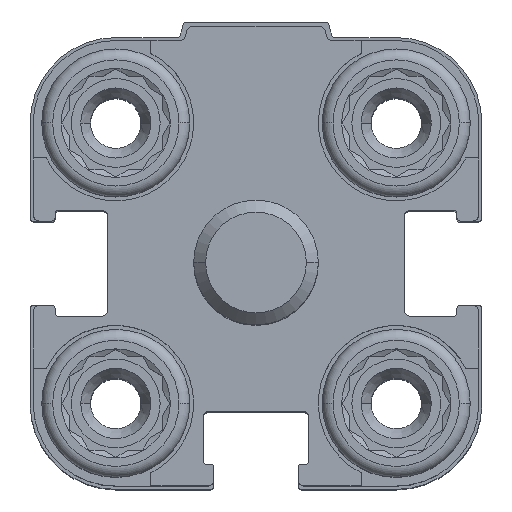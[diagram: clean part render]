
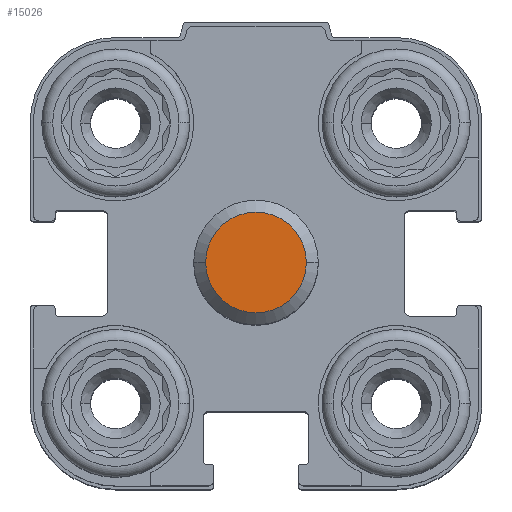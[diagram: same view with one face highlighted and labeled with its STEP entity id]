
A CAD part, top view. The second image highlights one B-rep face of the part: STEP entity #15026.
In plain terms, the highlighted planar face has unit normal (0, 0, 1).
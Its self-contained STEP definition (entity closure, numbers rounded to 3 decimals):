
#37 = AXIS2_PLACEMENT_3D ( 'NONE', #10712, #1025, #10891 ) ;
#325 = VERTEX_POINT ( 'NONE', #4646 ) ;
#1025 = DIRECTION ( 'NONE',  ( 0., 0., -1. ) ) ;
#2470 = ORIENTED_EDGE ( 'NONE', *, *, #7142, .F. ) ;
#3455 = CIRCLE ( 'NONE', #13479, 3.233 ) ;
#3671 = CARTESIAN_POINT ( 'NONE',  ( 0., 0., 24.5 ) ) ;
#4646 = CARTESIAN_POINT ( 'NONE',  ( -3.233, 0., 24.5 ) ) ;
#5130 = AXIS2_PLACEMENT_3D ( 'NONE', #5410, #7846, #10969 ) ;
#5410 = CARTESIAN_POINT ( 'NONE',  ( 0., 0., 24.5 ) ) ;
#6533 = EDGE_CURVE ( 'NONE', #325, #8972, #3455, .T. ) ;
#6995 = CARTESIAN_POINT ( 'NONE',  ( 3.233, 0., 24.5 ) ) ;
#7142 = EDGE_CURVE ( 'NONE', #8972, #325, #12852, .T. ) ;
#7846 = DIRECTION ( 'NONE',  ( 0., 0., -1. ) ) ;
#8972 = VERTEX_POINT ( 'NONE', #6995 ) ;
#9776 = EDGE_LOOP ( 'NONE', ( #11452, #2470 ) ) ;
#10712 = CARTESIAN_POINT ( 'NONE',  ( 0., 0., 24.5 ) ) ;
#10891 = DIRECTION ( 'NONE',  ( 0., 1., 0. ) ) ;
#10969 = DIRECTION ( 'NONE',  ( -1., 0., 0. ) ) ;
#11452 = ORIENTED_EDGE ( 'NONE', *, *, #6533, .F. ) ;
#12852 = CIRCLE ( 'NONE', #5130, 3.233 ) ;
#13479 = AXIS2_PLACEMENT_3D ( 'NONE', #3671, #14529, #17221 ) ;
#13577 = PLANE ( 'NONE',  #37 ) ;
#14529 = DIRECTION ( 'NONE',  ( 0., 0., -1. ) ) ;
#15026 = ADVANCED_FACE ( 'NONE', ( #16108 ), #13577, .F. ) ;
#16108 = FACE_OUTER_BOUND ( 'NONE', #9776, .T. ) ;
#17221 = DIRECTION ( 'NONE',  ( -1., 0., 0. ) ) ;
